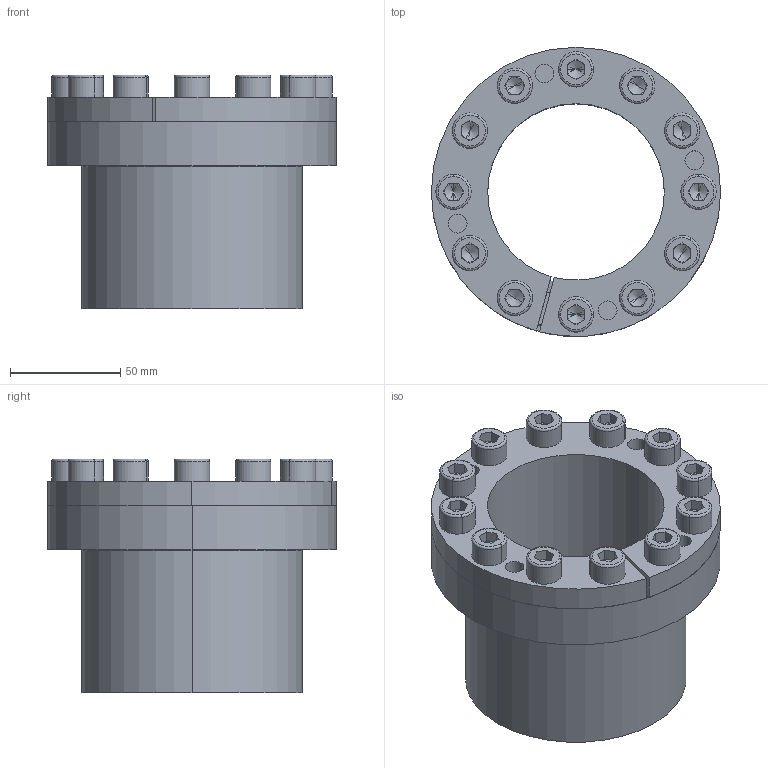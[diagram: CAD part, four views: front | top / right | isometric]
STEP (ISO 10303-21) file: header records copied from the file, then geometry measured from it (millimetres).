
FILE_DESCRIPTION (( 'STEP AP214' ), '1' );
FILE_NAME ('CONEX-B-80x100.step', '2013-04-04T12:42:26', ( 'Pc' ), ( '' ), 'SwSTEP 2.0', 'SolidWorks 2013', '' );
FILE_SCHEMA (( 'AUTOMOTIVE_DESIGN' ));
Length unit declared in the file: millimetre
Products named in the file (1): CONEX-B-80x100
Bounding box: 131 x 131 x 105.93 mm (x, y, z)
Volume: 419767.6 mm3; surface area: 170984.3 mm2
Topology: 15 solids, 15 shells, 420 faces, 962 edges, 572 vertices
Faces by surface type: plane 192, cylinder 120, torus 54, cone 54
Entity records: 16564 total; most frequent: DIRECTION 2226, CARTESIAN_POINT 1979, ORIENTED_EDGE 1876, EDGE_CURVE 938, AXIS2_PLACEMENT_3D 875, VERTEX_POINT 572, EDGE_LOOP 502, VECTOR 476
